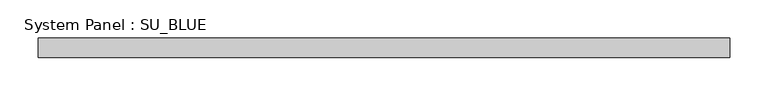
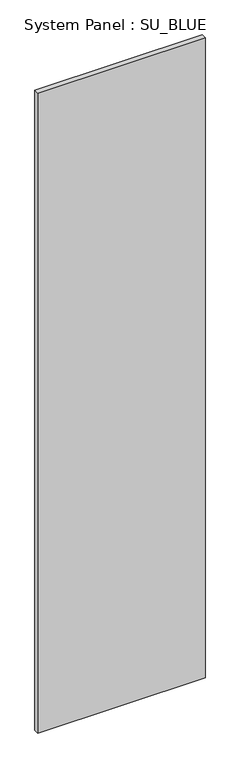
"""IFC4 building model written with IfcOpenShell, lengths in millimetres: plate geometry, System Panel : SU_BLUE."""

from ifc_helpers import new_model, si_unit, origin, origin_with_axes, place, context, project, spatial, polyline, outline, extrude, source, transform, mapped, element, save


def system_panel_su_blue_3064f965(model_context):
    return source(origin(), model_context, "Body", "SweptSolid", [
        extrude(outline(polyline([(452.5443201, 19.05), (-452.5443201, 19.05), (-452.5443201, 44.45), (452.5443201, 44.45), (452.5443201, 19.05)])), origin_with_axes(), (0.0, 0.0, 1.0), 3657.6),
    ])


if __name__ == "__main__":
    model = new_model("IFC4")
    model_context = context("Model", 3, world=origin())
    ifc_project = project(units=[si_unit("LENGTHUNIT", "METRE", prefix="MILLI")], contexts=[model_context])
    site = spatial("IfcSite", under=ifc_project)
    building = spatial("IfcBuilding", under=site)
    placement = place(None, origin())
    system_panel_su_blue_shape = system_panel_su_blue_3064f965(model_context)
    element("IfcPlate", 1, ObjectType="System Panel : SU_BLUE", at=placement, inside=building, context=model_context, shape_type="MappedRepresentation", body=[
        mapped(system_panel_su_blue_shape, transform((0.0, 0.0, 0.0), x_axis=(1.0, 0.0, 0.0), y_axis=(0.0, 1.0, 0.0), z_axis=(0.0, 0.0, 1.0))),
    ])
    save(model, "model.ifc")
